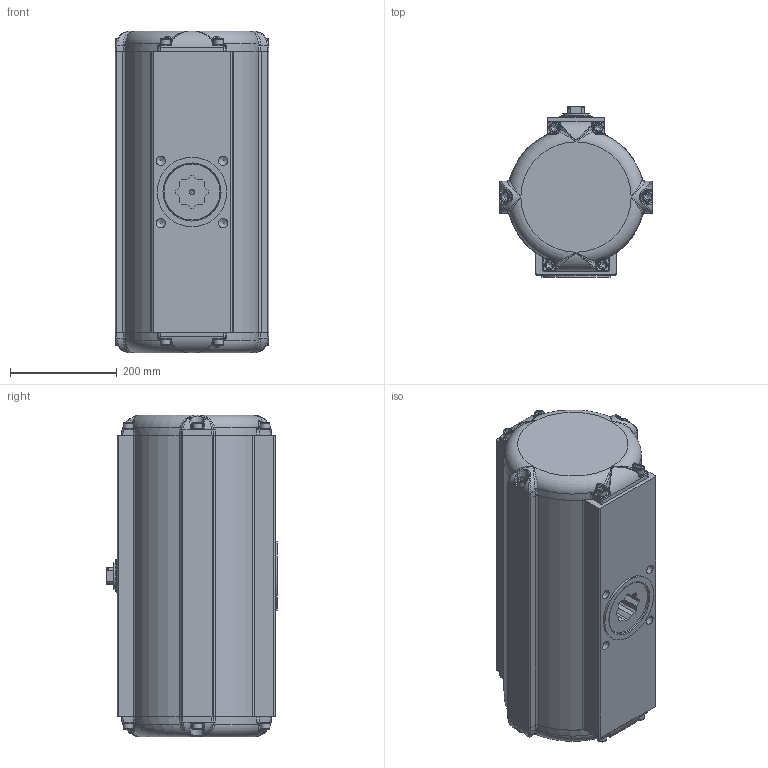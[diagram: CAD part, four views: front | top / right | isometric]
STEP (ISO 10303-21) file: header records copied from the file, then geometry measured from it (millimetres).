
FILE_DESCRIPTION((''),'2;1');
FILE_NAME('C:\Dokumente und Einstellungen\ko-p\Desktop\SAD_43-135°_BR03.stp','2011-02-02T11:48:17',('war'),(''),'Autodesk Inventor 2010','Autodesk Inventor 2010','');
FILE_SCHEMA(('AUTOMOTIVE_DESIGN { 1 0 10303 214 1 1 1 1 }'));
Length unit declared in the file: millimetre
Products named in the file (1): ENG-056150_Konturvereinfachung_1
Bounding box: 288 x 320 x 603.4 mm (x, y, z)
Surface area: 975829.1 mm2 (no closed solid volume)
Topology: 0 solids, 29 shells, 512 faces, 2108 edges, 1555 vertices
Faces by surface type: plane 200, bspline 144, cylinder 114, cone 33, torus 21
Full cylindrical faces by diameter (mm): 18 x12, 37 x1, 46.1 x1, 49.6 x1, 104 x1, 130 x1, 236 x1
Entity records: 28727 total; most frequent: CARTESIAN_POINT 13291, ORIENTED_EDGE 2918, DIRECTION 2559, EDGE_CURVE 1968, VERTEX_POINT 1505, AXIS2_PLACEMENT_3D 972, B_SPLINE_CURVE_WITH_KNOTS 657, EDGE_LOOP 647
